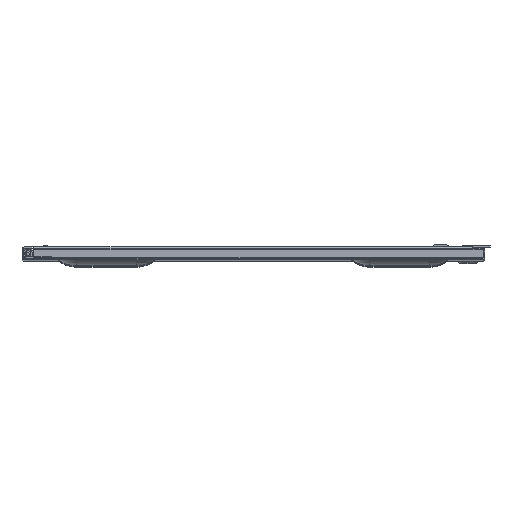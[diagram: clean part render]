
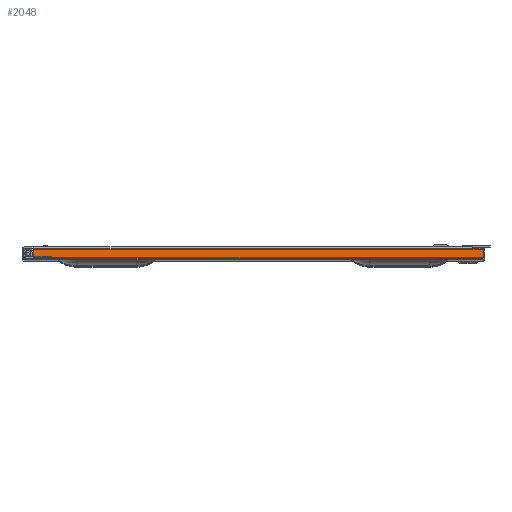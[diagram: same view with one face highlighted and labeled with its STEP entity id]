
A CAD part, top view. The second image highlights one B-rep face of the part: STEP entity #2048.
In plain terms, the highlighted planar face has unit normal (0, 0, 1).
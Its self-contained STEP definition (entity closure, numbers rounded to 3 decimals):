
#2048 = ADVANCED_FACE( '', ( #4192 ), #4193, .T. );
#4192 = FACE_OUTER_BOUND( '', #6486, .T. );
#4193 = PLANE( '', #6487 );
#6486 = EDGE_LOOP( '', ( #12263, #12264, #12265, #12266, #12267, #12268, #12269 ) );
#6487 = AXIS2_PLACEMENT_3D( '', #12270, #12271, #12272 );
#12263 = ORIENTED_EDGE( '', *, *, #13989, .T. );
#12264 = ORIENTED_EDGE( '', *, *, #15059, .T. );
#12265 = ORIENTED_EDGE( '', *, *, #14884, .F. );
#12266 = ORIENTED_EDGE( '', *, *, #14602, .F. );
#12267 = ORIENTED_EDGE( '', *, *, #14566, .F. );
#12268 = ORIENTED_EDGE( '', *, *, #15057, .T. );
#12269 = ORIENTED_EDGE( '', *, *, #14952, .T. );
#12270 = CARTESIAN_POINT( '', ( -232.88, 1.181, 530.225 ) );
#12271 = DIRECTION( '', ( 0., 0., 1. ) );
#12272 = DIRECTION( '', ( 0., -1., 0. ) );
#13989 = EDGE_CURVE( '', #17213, #17219, #17221, .T. );
#14566 = EDGE_CURVE( '', #18005, #16776, #18007, .T. );
#14602 = EDGE_CURVE( '', #16776, #18046, #18047, .T. );
#14884 = EDGE_CURVE( '', #18046, #18370, #18371, .T. );
#14952 = EDGE_CURVE( '', #18443, #17213, #18444, .T. );
#15057 = EDGE_CURVE( '', #18005, #18443, #18555, .T. );
#15059 = EDGE_CURVE( '', #17219, #18370, #18557, .T. );
#16776 = VERTEX_POINT( '', #20816 );
#17213 = VERTEX_POINT( '', #21355 );
#17219 = VERTEX_POINT( '', #21363 );
#17221 = LINE( '', #21366, #21367 );
#18005 = VERTEX_POINT( '', #22389 );
#18007 = LINE( '', #22391, #22392 );
#18046 = VERTEX_POINT( '', #22445 );
#18047 = LINE( '', #22446, #22447 );
#18370 = VERTEX_POINT( '', #22832 );
#18371 = LINE( '', #22833, #22834 );
#18443 = VERTEX_POINT( '', #22921 );
#18444 = LINE( '', #22922, #22923 );
#18555 = LINE( '', #23047, #23048 );
#18557 = LINE( '', #23050, #23051 );
#20816 = CARTESIAN_POINT( '', ( 232.88, 11.303, 530.225 ) );
#21355 = CARTESIAN_POINT( '', ( 243.98, 2.184, 530.225 ) );
#21363 = CARTESIAN_POINT( '', ( 243.98, 12.04, 530.225 ) );
#21366 = CARTESIAN_POINT( '', ( 243.98, 1.181, 530.225 ) );
#21367 = VECTOR( '', #25173, 1000. );
#22389 = CARTESIAN_POINT( '', ( -232.88, 11.303, 530.225 ) );
#22391 = CARTESIAN_POINT( '', ( 232.88, 11.303, 530.225 ) );
#22392 = VECTOR( '', #26085, 1000. );
#22445 = CARTESIAN_POINT( '', ( 232.882, 11.303, 530.225 ) );
#22446 = CARTESIAN_POINT( '', ( 232.88, 11.303, 530.225 ) );
#22447 = VECTOR( '', #26118, 1000. );
#22832 = CARTESIAN_POINT( '', ( 232.882, 12.04, 530.225 ) );
#22833 = CARTESIAN_POINT( '', ( 232.882, 11.303, 530.225 ) );
#22834 = VECTOR( '', #26442, 1000. );
#22921 = CARTESIAN_POINT( '', ( -232.88, 2.184, 530.225 ) );
#22922 = CARTESIAN_POINT( '', ( -232.88, 2.184, 530.225 ) );
#22923 = VECTOR( '', #26494, 1000. );
#23047 = CARTESIAN_POINT( '', ( -232.88, 1.181, 530.225 ) );
#23048 = VECTOR( '', #26583, 1000. );
#23050 = CARTESIAN_POINT( '', ( 245.453, 12.04, 530.225 ) );
#23051 = VECTOR( '', #26584, 1000. );
#25173 = DIRECTION( '', ( 0., 1., 0. ) );
#26085 = DIRECTION( '', ( 1., 0., 0. ) );
#26118 = DIRECTION( '', ( 1., 0., 0. ) );
#26442 = DIRECTION( '', ( 0., 1., 0. ) );
#26494 = DIRECTION( '', ( 1., 0., 0. ) );
#26583 = DIRECTION( '', ( 0., -1., 0. ) );
#26584 = DIRECTION( '', ( -1., 0., 0. ) );
